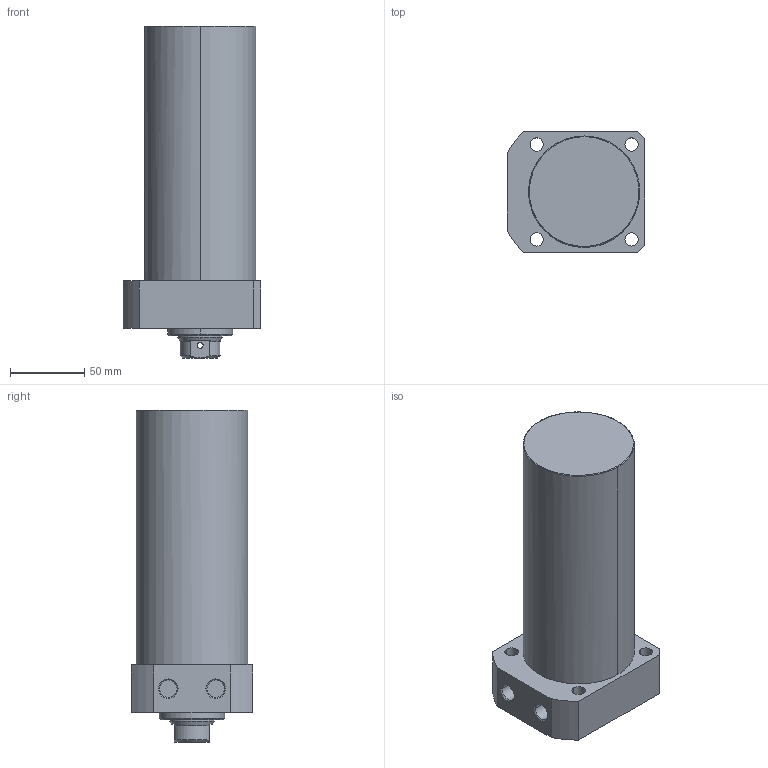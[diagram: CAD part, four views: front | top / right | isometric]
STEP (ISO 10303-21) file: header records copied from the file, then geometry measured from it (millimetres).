
FILE_DESCRIPTION((' '),'2;1');
FILE_NAME( 'TLLR-075CB-135.STEP.stp', '2025-10-24T16:35:09', (' '), ('--- Datakit www.datakit.com---'), ' Datakit CrossCadWare V2024.1 Dec 21 2023', 'Mastercam 2025', ' ');
FILE_SCHEMA(('AUTOMOTIVE_DESIGN { 1 0 10303 214 1 1 1 1 }'));
Length unit declared in the file: millimetre
Products named in the file (1): TLLR-075CB-135
Bounding box: 93 x 82 x 224 mm (x, y, z)
Volume: 994845.5 mm3; surface area: 74266.6 mm2
Topology: 1 solids, 1 shells, 67 faces, 197 edges, 136 vertices
Faces by surface type: cylinder 32, plane 19, cone 14, torus 2
Entity records: 3386 total; most frequent: CARTESIAN_POINT 1467, DIRECTION 426, ORIENTED_EDGE 390, EDGE_CURVE 195, AXIS2_PLACEMENT_3D 179, VERTEX_POINT 136, CIRCLE 111, EDGE_LOOP 85
